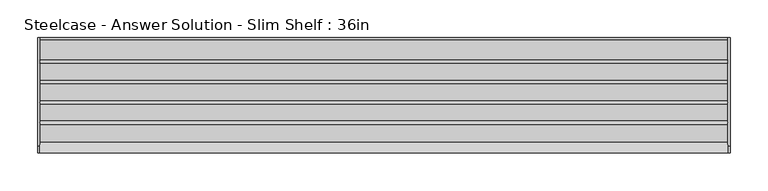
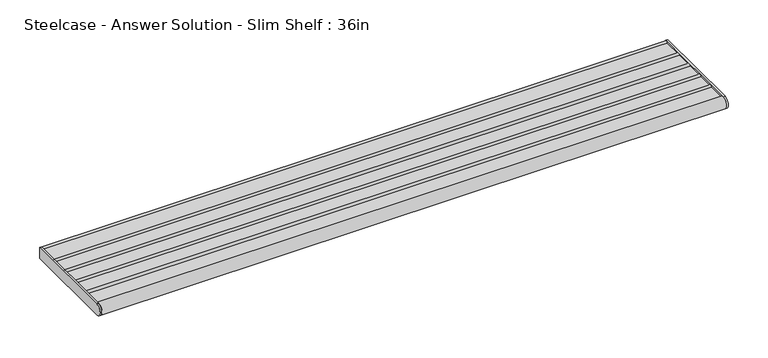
"""IFC4 building model written with IfcOpenShell, lengths in millimetres: furniture geometry, Steelcase - Answer Solution - Slim Shelf : 36in."""

from ifc_helpers import new_model, si_unit, point, frame, frame_2d, origin, place, context, project, spatial, polyline, circle_curve, trimmed, segment, composite_curve, outline, extrude, source, transform, mapped, element, save


def steelcase_answer_solution_slim_shelf_36in_5be3334f(model_context):
    return source(origin(), model_context, "Body", "SweptSolid", [
        extrude(outline(composite_curve([segment(polyline([(-29.2099994, 928.482716), (-2.2859999, 928.482716)]), True, "CONTINUOUS"), segment(trimmed(circle_curve(frame_2d((1e-07, 928.482716)), 2.2860001), [point((-2.2859999, 928.482716))], [point((0.0, 930.7687161))], False, "CARTESIAN"), True, "CONTINUOUS"), segment(polyline([(0.0, 930.7687161), (0.0, 914.4), (-143.9753135, 914.4)]), True, "CONTINUOUS"), segment(trimmed(circle_curve(frame_2d((-143.9753135, 922.8328065)), 8.4328065), [point((-143.9753135, 914.4))], [point((-137.7150621, 928.482716))], False, "CARTESIAN"), True, "CONTINUOUS"), segment(polyline([(-137.7150621, 928.482716), (-114.7063978, 928.482716)]), True, "CONTINUOUS"), segment(trimmed(circle_curve(frame_2d((-112.4204, 928.482716)), 2.2859978), [point((-114.7063978, 928.482716))], [point((-110.1344022, 928.482716))], False, "CARTESIAN"), True, "CONTINUOUS"), segment(polyline([(-110.1344022, 928.482716), (-87.7315999, 928.482716)]), True, "CONTINUOUS"), segment(trimmed(circle_curve(frame_2d((-85.4456021, 928.482716)), 2.2859978), [point((-87.7315999, 928.482716))], [point((-83.1596043, 928.482716))], False, "CARTESIAN"), True, "CONTINUOUS"), segment(polyline([(-83.1596043, 928.482716), (-60.756802, 928.482716)]), True, "CONTINUOUS"), segment(trimmed(circle_curve(frame_2d((-58.4708019, 928.482716)), 2.2860001), [point((-60.756802, 928.482716))], [point((-56.1848018, 928.482716))], False, "CARTESIAN"), True, "CONTINUOUS"), segment(polyline([(-56.1848018, 928.482716), (-33.7819996, 928.482716)]), True, "CONTINUOUS"), segment(trimmed(circle_curve(frame_2d((-31.4959995, 928.482716)), 2.2860001), [point((-33.7819996, 928.482716))], [point((-29.2099994, 928.482716))], False, "CARTESIAN"), True, "CONTINUOUS")], self_intersect=False)), frame((2.7431999, 0.0, 0.0), z_axis=(1.0, 0.0, 0.0), x_axis=(0.0, 1.0, 0.0)), (0.0, 0.0, 1.0), 908.8120001),
        extrude(outline(composite_curve([segment(polyline([(-143.9753135, 931.265613), (0.0, 931.265613), (0.0, 914.4), (-143.9753135, 914.4)]), True, "CONTINUOUS"), segment(trimmed(circle_curve(frame_2d((-143.9753135, 922.8328065)), 8.4328065), [point((-143.9753135, 914.4))], [point((-143.9753135, 931.265613))], False, "CARTESIAN"), True, "CONTINUOUS")], self_intersect=False)), frame((911.5552, 0.0, 0.0), z_axis=(1.0, 0.0, 0.0), x_axis=(0.0, 1.0, 0.0)), (0.0, 0.0, 1.0), 2.8448),
        extrude(outline(composite_curve([segment(polyline([(-143.9753135, 931.265613), (0.0, 931.265613), (0.0, 914.4), (-143.9753135, 914.4)]), True, "CONTINUOUS"), segment(trimmed(circle_curve(frame_2d((-143.9753135, 922.8328065)), 8.4328065), [point((-143.9753135, 914.4))], [point((-143.9753135, 931.265613))], False, "CARTESIAN"), True, "CONTINUOUS")], self_intersect=False)), frame((0.0, 0.0, 0.0), z_axis=(1.0, 0.0, 0.0), x_axis=(0.0, 1.0, 0.0)), (0.0, 0.0, 1.0), 2.7431999),
    ])


if __name__ == "__main__":
    model = new_model("IFC4")
    model_context = context("Model", 3, world=origin())
    ifc_project = project(units=[si_unit("LENGTHUNIT", "METRE", prefix="MILLI")], contexts=[model_context])
    site = spatial("IfcSite", under=ifc_project)
    building = spatial("IfcBuilding", under=site)
    placement = place(None, origin())
    steelcase_answer_solution_slim_shelf_36in_shape = steelcase_answer_solution_slim_shelf_36in_5be3334f(model_context)
    element("IfcFurniture", 1, ObjectType="Steelcase - Answer Solution - Slim Shelf : 36in", at=placement, inside=building, context=model_context, shape_type="MappedRepresentation", body=[
        mapped(steelcase_answer_solution_slim_shelf_36in_shape, transform((0.0, 0.0, 0.0), x_axis=(1.0, 0.0, 0.0), y_axis=(0.0, 1.0, 0.0), z_axis=(0.0, 0.0, 1.0))),
    ])
    save(model, "model.ifc")
